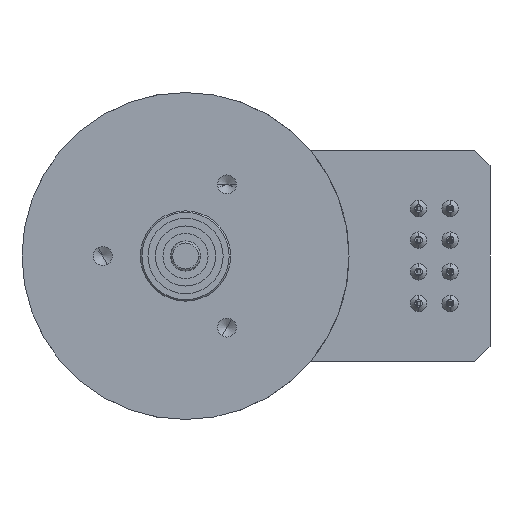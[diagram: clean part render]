
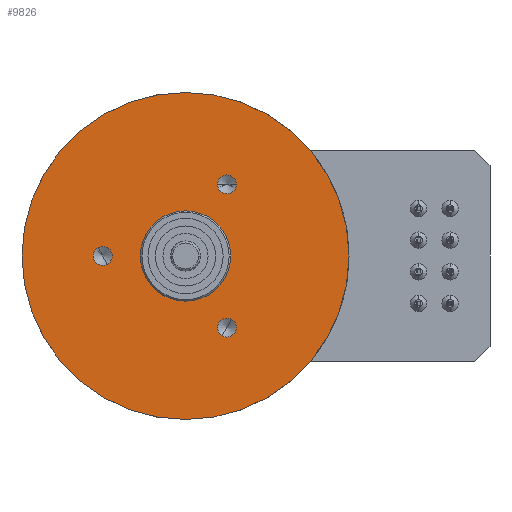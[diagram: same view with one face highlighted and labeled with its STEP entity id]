
A CAD part, left-side view. The second image highlights one B-rep face of the part: STEP entity #9826.
In plain terms, the highlighted planar face has unit normal (-1, 0, 0).
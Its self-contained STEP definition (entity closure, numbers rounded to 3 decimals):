
#69=CARTESIAN_POINT('',(0.,0.,0.));
#70=DIRECTION('',(1.,0.,0.));
#71=DIRECTION('',(0.,1.,0.));
#72=AXIS2_PLACEMENT_3D('',#69,#70,#71);
#92=CARTESIAN_POINT('',(0.,0.,0.));
#93=DIRECTION('',(-1.,0.,0.));
#94=DIRECTION('',(0.,1.,0.));
#95=AXIS2_PLACEMENT_3D('',#92,#93,#94);
#366=CARTESIAN_POINT('',(0.,0.,0.));
#367=DIRECTION('',(1.,0.,0.));
#368=DIRECTION('',(0.,1.,0.));
#369=AXIS2_PLACEMENT_3D('',#366,#367,#368);
#374=CARTESIAN_POINT('',(0.,0.,0.));
#375=DIRECTION('',(-1.,0.,0.));
#376=DIRECTION('',(0.,1.,0.));
#377=AXIS2_PLACEMENT_3D('',#374,#375,#376);
#382=CARTESIAN_POINT('',(0.,-5.5,9.526));
#383=DIRECTION('',(-1.,0.,0.));
#384=DIRECTION('',(0.,1.,0.));
#385=AXIS2_PLACEMENT_3D('',#382,#383,#384);
#390=CARTESIAN_POINT('',(0.,-5.5,9.526));
#391=DIRECTION('',(-1.,0.,0.));
#392=DIRECTION('',(0.,-1.,0.));
#393=AXIS2_PLACEMENT_3D('',#390,#391,#392);
#398=CARTESIAN_POINT('',(0.,-5.5,-9.526));
#399=DIRECTION('',(-1.,0.,0.));
#400=DIRECTION('',(0.,-0.5,0.866));
#401=AXIS2_PLACEMENT_3D('',#398,#399,#400);
#406=CARTESIAN_POINT('',(0.,-5.5,-9.526));
#407=DIRECTION('',(-1.,0.,0.));
#408=DIRECTION('',(0.,0.5,-0.866));
#409=AXIS2_PLACEMENT_3D('',#406,#407,#408);
#414=CARTESIAN_POINT('',(0.,11.,0.));
#415=DIRECTION('',(-1.,0.,0.));
#416=DIRECTION('',(0.,-0.5,-0.866));
#417=AXIS2_PLACEMENT_3D('',#414,#415,#416);
#422=CARTESIAN_POINT('',(0.,11.,0.));
#423=DIRECTION('',(-1.,0.,0.));
#424=DIRECTION('',(0.,0.5,0.866));
#425=AXIS2_PLACEMENT_3D('',#422,#423,#424);
#8108=CARTESIAN_POINT('',(0.,21.75,0.));
#8110=VERTEX_POINT('',#8108);
#8123=CARTESIAN_POINT('',(0.,6.,0.));
#8125=VERTEX_POINT('',#8123);
#8127=CARTESIAN_POINT('',(0.,-6.,0.));
#8129=VERTEX_POINT('',#8127);
#8754=CARTESIAN_POINT('',(0.,-21.75,0.));
#8756=VERTEX_POINT('',#8754);
#8931=CARTESIAN_POINT('',(0.,-4.25,9.526));
#8932=CARTESIAN_POINT('',(0.,-6.75,9.526));
#8933=VERTEX_POINT('',#8931);
#8934=VERTEX_POINT('',#8932);
#8941=CARTESIAN_POINT('',(0.,-6.125,-8.444));
#8942=CARTESIAN_POINT('',(0.,-4.875,-10.609));
#8943=VERTEX_POINT('',#8941);
#8944=VERTEX_POINT('',#8942);
#8951=CARTESIAN_POINT('',(0.,10.375,-1.083));
#8952=CARTESIAN_POINT('',(0.,11.625,1.083));
#8953=VERTEX_POINT('',#8951);
#8954=VERTEX_POINT('',#8952);
#9793=CARTESIAN_POINT('',(0.,0.,0.));
#9794=DIRECTION('',(1.,0.,0.));
#9795=DIRECTION('',(0.,-1.,0.));
#9796=AXIS2_PLACEMENT_3D('',#9793,#9794,#9795);
#9797=PLANE('',#9796);
#9799=ORIENTED_EDGE('',*,*,#9798,.T.);
#9801=ORIENTED_EDGE('',*,*,#9800,.F.);
#9802=EDGE_LOOP('',(#9799,#9801));
#9803=FACE_OUTER_BOUND('',#9802,.F.);
#9804=ORIENTED_EDGE('',*,*,#9532,.T.);
#9805=ORIENTED_EDGE('',*,*,#9514,.F.);
#9806=EDGE_LOOP('',(#9804,#9805));
#9807=FACE_BOUND('',#9806,.F.);
#9809=ORIENTED_EDGE('',*,*,#9808,.T.);
#9811=ORIENTED_EDGE('',*,*,#9810,.T.);
#9812=EDGE_LOOP('',(#9809,#9811));
#9813=FACE_BOUND('',#9812,.F.);
#9815=ORIENTED_EDGE('',*,*,#9814,.T.);
#9817=ORIENTED_EDGE('',*,*,#9816,.T.);
#9818=EDGE_LOOP('',(#9815,#9817));
#9819=FACE_BOUND('',#9818,.F.);
#9821=ORIENTED_EDGE('',*,*,#9820,.T.);
#9823=ORIENTED_EDGE('',*,*,#9822,.T.);
#9824=EDGE_LOOP('',(#9821,#9823));
#9825=FACE_BOUND('',#9824,.F.);
#9826=ADVANCED_FACE('',(#9803,#9807,#9813,#9819,#9825),#9797,.F.);
#73=CIRCLE('',#72,6.);
#96=CIRCLE('',#95,6.);
#370=CIRCLE('',#369,21.75);
#378=CIRCLE('',#377,21.75);
#386=CIRCLE('',#385,1.25);
#394=CIRCLE('',#393,1.25);
#402=CIRCLE('',#401,1.25);
#410=CIRCLE('',#409,1.25);
#418=CIRCLE('',#417,1.25);
#426=CIRCLE('',#425,1.25);
#9514=EDGE_CURVE('',#8125,#8129,#73,.T.);
#9532=EDGE_CURVE('',#8125,#8129,#96,.T.);
#9798=EDGE_CURVE('',#8110,#8756,#370,.T.);
#9800=EDGE_CURVE('',#8110,#8756,#378,.T.);
#9808=EDGE_CURVE('',#8933,#8934,#386,.T.);
#9810=EDGE_CURVE('',#8934,#8933,#394,.T.);
#9814=EDGE_CURVE('',#8943,#8944,#402,.T.);
#9816=EDGE_CURVE('',#8944,#8943,#410,.T.);
#9820=EDGE_CURVE('',#8953,#8954,#418,.T.);
#9822=EDGE_CURVE('',#8954,#8953,#426,.T.);
